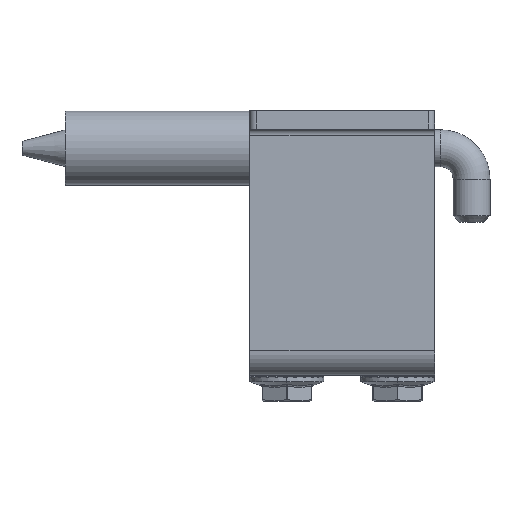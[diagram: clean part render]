
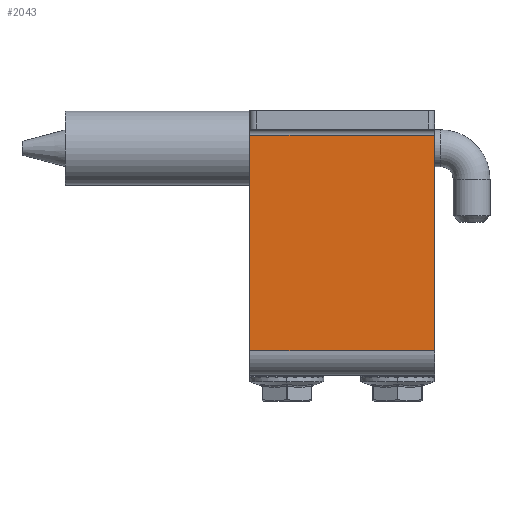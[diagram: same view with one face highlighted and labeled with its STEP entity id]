
A CAD part, left-side view. The second image highlights one B-rep face of the part: STEP entity #2043.
In plain terms, the highlighted planar face has unit normal (-1, 0, 0).
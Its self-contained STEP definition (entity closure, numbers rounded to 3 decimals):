
#1373=DIRECTION('',(0.,1.,0.));
#1374=VECTOR('',#1373,30.);
#1375=CARTESIAN_POINT('',(-3.,-15.,-39.));
#1376=LINE('',#1375,#1374);
#1377=DIRECTION('',(0.,1.,0.));
#1378=VECTOR('',#1377,30.);
#1379=CARTESIAN_POINT('',(-3.,-15.,-4.));
#1380=LINE('',#1379,#1378);
#1389=DIRECTION('',(0.,0.,-1.));
#1390=VECTOR('',#1389,35.);
#1391=CARTESIAN_POINT('',(-3.,-15.,-4.));
#1392=LINE('',#1391,#1390);
#1561=DIRECTION('',(0.,0.,-1.));
#1562=VECTOR('',#1561,35.);
#1563=CARTESIAN_POINT('',(-3.,15.,-4.));
#1564=LINE('',#1563,#1562);
#1582=CARTESIAN_POINT('',(-3.,-15.,-4.));
#1584=VERTEX_POINT('',#1582);
#1585=CARTESIAN_POINT('',(-3.,-15.,-39.));
#1586=VERTEX_POINT('',#1585);
#1590=CARTESIAN_POINT('',(-3.,15.,-4.));
#1592=VERTEX_POINT('',#1590);
#1593=CARTESIAN_POINT('',(-3.,15.,-39.));
#1594=VERTEX_POINT('',#1593);
#2029=CARTESIAN_POINT('',(-3.,-15.,-4.));
#2030=DIRECTION('',(1.,0.,0.));
#2031=DIRECTION('',(0.,0.,-1.));
#2032=AXIS2_PLACEMENT_3D('',#2029,#2030,#2031);
#2033=PLANE('',#2032);
#2035=ORIENTED_EDGE('',*,*,#2034,.T.);
#2036=ORIENTED_EDGE('',*,*,#2024,.T.);
#2038=ORIENTED_EDGE('',*,*,#2037,.F.);
#2040=ORIENTED_EDGE('',*,*,#2039,.F.);
#2041=EDGE_LOOP('',(#2035,#2036,#2038,#2040));
#2042=FACE_OUTER_BOUND('',#2041,.F.);
#2043=ADVANCED_FACE('',(#2042),#2033,.F.);
#2024=EDGE_CURVE('',#1586,#1594,#1376,.T.);
#2034=EDGE_CURVE('',#1584,#1586,#1392,.T.);
#2037=EDGE_CURVE('',#1592,#1594,#1564,.T.);
#2039=EDGE_CURVE('',#1584,#1592,#1380,.T.);
